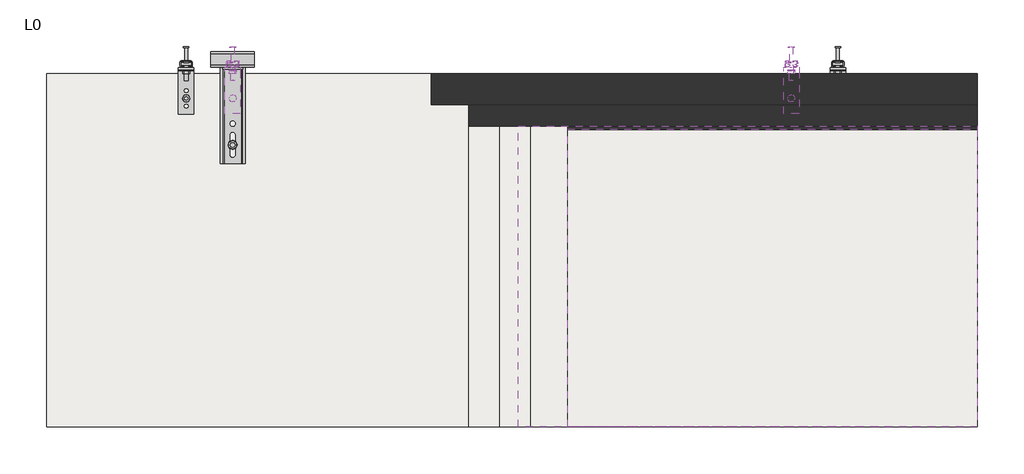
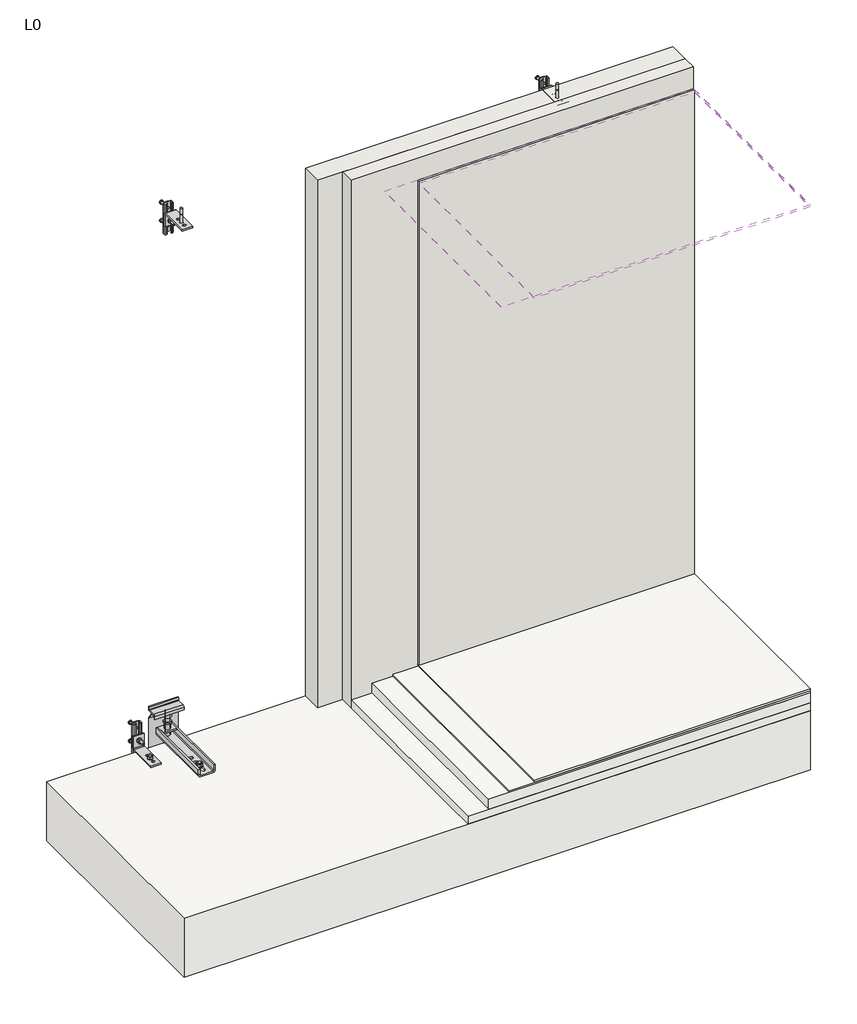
# One storey: 27 fasteners, 5 slabs, 3 walls, 2 coverings.
"""IFC4 building model written with IfcOpenShell, lengths in millimetres."""

from ifc_helpers import new_model, si_unit, frame, origin, origin_with_axes, place, context, project, spatial, polyline, outline, extrude, faceted_brep, transform, mapped, element, save
from components import fastener_e2884140, fastener_89f2e246, fastener_4d305c28, fastener_8cac4275, rec_aem12_100_aem12_100_46347e7a, rec_aem12_100_aem12_100_c00aaa73, rec_aem16_140_aem16_140_c98ec31b, rec_mf45t_mf45t_64a75cb8, rec_paa150708t14_paa150708t14_abbbcd53, rec_paa150708t14_paa150708t14_b81293e0, rec_ph4022_ph4022_520e7247, rec_ph4022_ph4022_34b11cd3, rec_tph1250_tph1250_56b32e52, rec_tph1250_tph1250_fb22594f

model = new_model("IFC4")

# Units and contexts
model_context = context("Model", 3, world=origin())
ifc_project = project(units=[si_unit("LENGTHUNIT", "METRE", prefix="MILLI")], contexts=[model_context])

# Site, building, storey
site = spatial("IfcSite", under=ifc_project)
building = spatial("IfcBuilding", under=site)
storey = spatial("IfcBuildingStorey", under=building, Name="L0", Elevation=0.0)

# Coverings
placement = place(None, origin())
element("IfcCovering", 1, ObjectType="Aislamiento", at=placement, inside=storey, context=model_context, shape_type="SweptSolid", body=[
    extrude(outline(polyline([(7887.7202663, 14794.5302953), (6407.7202663, 14794.5302953), (6407.7202663, 15764.5302953), (7887.7202663, 15764.5302953), (7887.7202663, 14794.5302953)])), frame((0.0, 0.0, 2560.0), z_axis=(0.0, 0.0, 1.0), x_axis=(1.0, 0.0, 0.0)), (0.0, 0.0, 1.0), 80.0),
])
element("IfcCovering", 2, ObjectType="Placa", at=placement, inside=storey, context=model_context, shape_type="SweptSolid", body=[
    extrude(outline(polyline([(7887.7202663, 14794.5302953), (6567.7202663, 14794.5302953), (6567.7202663, 15754.5302953), (7887.7202663, 15754.5302953), (7887.7202663, 14794.5302953)])), frame((0.0, 0.0, 2550.0), z_axis=(0.0, 0.0, 1.0), x_axis=(1.0, 0.0, 0.0)), (0.0, 0.0, 1.0), 10.0),
])

# Fasteners
fastener_shape = fastener_e2884140(model_context)
element("IfcFastener", 3, ObjectType="GEN-T-M12 : T-M12", at=placement, inside=storey, context=model_context, shape_type="MappedRepresentation", body=[
    mapped(fastener_shape, transform((5487.7202663, 15944.1302977, 2625.0), x_axis=(-1.0, 0.0, 0.0), y_axis=(0.0, 0.0, -1.0), z_axis=(0.0, -1.0, 0.0))),
])
element("IfcFastener", 4, ObjectType="GEN-T-M12 : T-M12", at=placement, inside=storey, context=model_context, shape_type="MappedRepresentation", body=[
    mapped(fastener_shape, transform((5337.7202663, 15944.1302977, 45.0), x_axis=(1.0, 0.0, 0.0), y_axis=(0.0, 0.0, 1.0), z_axis=(0.0, -1.0, 0.0))),
])
element("IfcFastener", 5, ObjectType="GEN-T-M12 : T-M12", at=placement, inside=storey, context=model_context, shape_type="MappedRepresentation", body=[
    mapped(fastener_shape, transform((7437.7202663, 15944.1302977, 45.0), x_axis=(1.0, 0.0, 0.0), y_axis=(0.0, 0.0, 1.0), z_axis=(0.0, -1.0, 0.0))),
])
fastener_2_shape = fastener_89f2e246(model_context)
element("IfcFastener", 6, ObjectType="GEN-A-M12 : A-M12", at=placement, inside=storey, context=model_context, shape_type="MappedRepresentation", body=[
    mapped(fastener_2_shape, transform((5487.7202663, 15946.5302953, 2625.0), x_axis=(-1.0, 0.0, 0.0), y_axis=(0.0, 0.0, -1.0), z_axis=(0.0, -1.0, 0.0))),
])
element("IfcFastener", 7, ObjectType="GEN-A-M12 : A-M12", at=placement, inside=storey, context=model_context, shape_type="MappedRepresentation", body=[
    mapped(fastener_2_shape, transform((5337.7202663, 15946.5302953, 45.0), x_axis=(1.0, 0.0, 0.0), y_axis=(0.0, 0.0, 1.0), z_axis=(0.0, -1.0, 0.0))),
])
element("IfcFastener", 8, ObjectType="GEN-A-M12 : A-M12", at=placement, inside=storey, context=model_context, shape_type="MappedRepresentation", body=[
    mapped(fastener_2_shape, transform((7437.7202663, 15946.5302953, 45.0), x_axis=(1.0, 0.0, 0.0), y_axis=(0.0, 0.0, 1.0), z_axis=(0.0, -1.0, 0.0))),
])
fastener_3_shape = fastener_4d305c28(model_context)
element("IfcFastener", 9, ObjectType="REC-CMFPR-2 : CMFPR-2", at=placement, inside=storey, context=model_context, shape_type="MappedRepresentation", body=[
    mapped(fastener_3_shape, transform((5487.5892832, 15954.5302953, -83.5), x_axis=(0.0, 0.0, -1.0), y_axis=(1.0, 0.0, 0.0), z_axis=(0.0, -1.0, 0.0))),
])
element("IfcFastener", 10, ObjectType="GEN-A-M12 : A-M12", at=placement, inside=storey, context=model_context, shape_type="MappedRepresentation", body=[
    mapped(fastener_2_shape, transform((7287.7202663, 15946.5302953, 2625.0), x_axis=(1.0, 0.0, 0.0), y_axis=(0.0, 0.0, 1.0), z_axis=(0.0, -1.0, 0.0))),
])
fastener_4_shape = fastener_8cac4275(model_context)
element("IfcFastener", 11, ObjectType="GEN-T-M12 : T-M12", at=placement, inside=storey, context=model_context, shape_type="MappedRepresentation", body=[
    mapped(fastener_4_shape, transform((7287.7202663, 15944.1302977, 2625.0), x_axis=(1.0, 0.0, 0.0), y_axis=(0.0, 0.0, 1.0), z_axis=(0.0, -1.0, 0.0))),
])
rec_aem12_100_aem12_100_shape = rec_aem12_100_aem12_100_46347e7a(model_context)
element("IfcFastener", 12, ObjectType="REC-AEM12-100 : AEM12-100", at=placement, inside=storey, context=model_context, shape_type="MappedRepresentation", body=[
    mapped(rec_aem12_100_aem12_100_shape, transform((5487.7202663, 15854.5302953, 2662.0), x_axis=(-1.0, 0.0, 0.0), y_axis=(0.0, 1.0, 0.0), z_axis=(0.0, 0.0, -1.0))),
])
element("IfcFastener", 13, ObjectType="REC-AEM12-100 : AEM12-100", at=placement, inside=storey, context=model_context, shape_type="MappedRepresentation", body=[
    mapped(rec_aem12_100_aem12_100_shape, transform((5337.7202663, 15854.5302953, 8.0), x_axis=(1.0, 0.0, 0.0), y_axis=(0.0, 1.0, 0.0), z_axis=(0.0, 0.0, 1.0))),
])
element("IfcFastener", 14, ObjectType="REC-AEM12-100 : AEM12-100", at=placement, inside=storey, context=model_context, shape_type="MappedRepresentation", body=[
    mapped(rec_aem12_100_aem12_100_shape, transform((7437.7202663, 15854.5302953, 8.0), x_axis=(1.0, 0.0, 0.0), y_axis=(0.0, 1.0, 0.0), z_axis=(0.0, 0.0, 1.0))),
])
rec_aem12_100_aem12_100_2_shape = rec_aem12_100_aem12_100_c00aaa73(model_context)
element("IfcFastener", 15, ObjectType="REC-AEM12-100 : AEM12-100", at=placement, inside=storey, context=model_context, shape_type="MappedRepresentation", body=[
    mapped(rec_aem12_100_aem12_100_2_shape, transform((7287.7202663, 15854.5302953, 2662.0), x_axis=(1.0, 0.0, 0.0), y_axis=(0.0, -1.0, 0.0), z_axis=(0.0, 0.0, -1.0))),
])
rec_aem16_140_aem16_140_shape = rec_aem16_140_aem16_140_c98ec31b(model_context)
element("IfcFastener", 16, ObjectType="REC-AEM16-140 : AEM16-140", at=placement, inside=storey, context=model_context, shape_type="MappedRepresentation", body=[
    mapped(rec_aem16_140_aem16_140_shape, transform((5487.5892832, 15704.5302953, 8.0401188), x_axis=(0.0, 1.0, 0.0), y_axis=(-1.0, 0.0, -1.0642456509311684e-12), z_axis=(-1.0642456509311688e-12, 0.0, 1.0))),
])
rec_mf45t_mf45t_shape = rec_mf45t_mf45t_64a75cb8(model_context)
element("IfcFastener", 17, ObjectType="REC-MF45T : MF45T", at=placement, inside=storey, context=model_context, shape_type="MappedRepresentation", body=[
    mapped(rec_mf45t_mf45t_shape, transform((5487.5892832, 15994.5302953, 0.0401188), x_axis=(1.0, 0.0, 0.0), y_axis=(0.0, 0.0, 1.0), z_axis=(0.0, -1.0, 0.0))),
])
rec_paa150708t14_paa150708t14_shape = rec_paa150708t14_paa150708t14_abbbcd53(model_context)
element("IfcFastener", 18, ObjectType="REC-PAA150708T14 : PAA150708T14", at=placement, inside=storey, context=model_context, shape_type="MappedRepresentation", body=[
    mapped(rec_paa150708t14_paa150708t14_shape, transform((5487.7202663, 15954.5302953, 2670.0), x_axis=(-1.0, 0.0, 0.0), y_axis=(0.0, 0.0, -1.0), z_axis=(0.0, -1.0, 0.0))),
])
element("IfcFastener", 19, ObjectType="REC-PAA150708T14 : PAA150708T14", at=placement, inside=storey, context=model_context, shape_type="MappedRepresentation", body=[
    mapped(rec_paa150708t14_paa150708t14_shape, transform((5337.7202663, 15954.5302953, 0.0), x_axis=(1.0, 0.0, 0.0), y_axis=(0.0, 0.0, 1.0), z_axis=(0.0, -1.0, 0.0))),
])
element("IfcFastener", 20, ObjectType="REC-PAA150708T14 : PAA150708T14", at=placement, inside=storey, context=model_context, shape_type="MappedRepresentation", body=[
    mapped(rec_paa150708t14_paa150708t14_shape, transform((7437.7202663, 15954.5302953, 0.0), x_axis=(1.0, 0.0, 0.0), y_axis=(0.0, 0.0, 1.0), z_axis=(0.0, -1.0, 0.0))),
])
rec_paa150708t14_paa150708t14_2_shape = rec_paa150708t14_paa150708t14_b81293e0(model_context)
element("IfcFastener", 21, ObjectType="REC-PAA150708T14 : PAA150708T14", at=placement, inside=storey, context=model_context, shape_type="MappedRepresentation", body=[
    mapped(rec_paa150708t14_paa150708t14_2_shape, transform((7287.7202663, 15954.5302953, 2670.0), x_axis=(1.0, 0.0, 0.0), y_axis=(0.0, 0.0, 1.0), z_axis=(0.0, -1.0, 0.0))),
])
rec_ph4022_ph4022_shape = rec_ph4022_ph4022_520e7247(model_context)
element("IfcFastener", 22, ObjectType="REC-PH4022 : PH4022", at=placement, inside=storey, context=model_context, shape_type="MappedRepresentation", body=[
    mapped(rec_ph4022_ph4022_shape, transform((5487.7202663, 15954.5302953, 2625.0), x_axis=(0.0, 0.0, 1.0), y_axis=(-1.0, 0.0, 0.0), z_axis=(0.0, -1.0, 0.0))),
])
element("IfcFastener", 23, ObjectType="REC-PH4022 : PH4022", at=placement, inside=storey, context=model_context, shape_type="MappedRepresentation", body=[
    mapped(rec_ph4022_ph4022_shape, transform((5337.7202663, 15954.5302953, 45.0), x_axis=(0.0, 0.0, -1.0), y_axis=(1.0, 0.0, 0.0), z_axis=(0.0, -1.0, 0.0))),
])
element("IfcFastener", 24, ObjectType="REC-PH4022 : PH4022", at=placement, inside=storey, context=model_context, shape_type="MappedRepresentation", body=[
    mapped(rec_ph4022_ph4022_shape, transform((7437.7202663, 15954.5302953, 45.0), x_axis=(0.0, 0.0, -1.0), y_axis=(1.0, 0.0, 0.0), z_axis=(0.0, -1.0, 0.0))),
])
rec_ph4022_ph4022_2_shape = rec_ph4022_ph4022_34b11cd3(model_context)
element("IfcFastener", 25, ObjectType="REC-PH4022 : PH4022", at=placement, inside=storey, context=model_context, shape_type="MappedRepresentation", body=[
    mapped(rec_ph4022_ph4022_2_shape, transform((7287.7202663, 15954.5302953, 2625.0), x_axis=(0.0, 0.0, 1.0), y_axis=(-1.0, 0.0, 0.0), z_axis=(0.0, -1.0, 0.0))),
])
rec_tph1250_tph1250_shape = rec_tph1250_tph1250_56b32e52(model_context)
element("IfcFastener", 26, ObjectType="REC-TPH1250 : TPH1250", at=placement, inside=storey, context=model_context, shape_type="MappedRepresentation", body=[
    mapped(rec_tph1250_tph1250_shape, transform((5487.7202663, 15911.5355917, 2625.0), x_axis=(-1.0, 0.0, 0.0), y_axis=(0.0, 0.0, 1.0), z_axis=(0.0, 1.0, 0.0))),
])
element("IfcFastener", 27, ObjectType="REC-TPH1250 : TPH1250", at=placement, inside=storey, context=model_context, shape_type="MappedRepresentation", body=[
    mapped(rec_tph1250_tph1250_shape, transform((5337.7202663, 15911.5355917, 45.0), x_axis=(1.0, 0.0, 0.0), y_axis=(0.0, 0.0, -1.0), z_axis=(0.0, 1.0, 0.0))),
])
element("IfcFastener", 28, ObjectType="REC-TPH1250 : TPH1250", at=placement, inside=storey, context=model_context, shape_type="MappedRepresentation", body=[
    mapped(rec_tph1250_tph1250_shape, transform((7437.7202663, 15911.5355917, 45.0), x_axis=(1.0, 0.0, 0.0), y_axis=(0.0, 0.0, -1.0), z_axis=(0.0, 1.0, 0.0))),
])
rec_tph1250_tph1250_2_shape = rec_tph1250_tph1250_fb22594f(model_context)
element("IfcFastener", 29, ObjectType="REC-TPH1250 : TPH1250", at=placement, inside=storey, context=model_context, shape_type="MappedRepresentation", body=[
    mapped(rec_tph1250_tph1250_2_shape, transform((7287.7202663, 15911.5355917, 2625.0), x_axis=(1.0, 0.0, 0.0), y_axis=(0.0, 0.0, -1.0), z_axis=(0.0, 1.0, 0.0))),
])

# Slabs
element("IfcSlab", 30, ObjectType="DPG_Pegamento cemento", at=placement, inside=storey, context=model_context, shape_type="SweptSolid", body=[
    extrude(outline(polyline([(7887.7202663, 15764.5302953), (7887.7202663, 14794.5302953), (6447.7202663, 14794.5302953), (6447.7202663, 15764.5302953), (7887.7202663, 15764.5302953)])), frame((0.0, 0.0, 90.0), z_axis=(0.0, 0.0, 1.0), x_axis=(1.0, 0.0, 0.0)), (0.0, 0.0, 1.0), 10.0),
])
element("IfcSlab", 31, ObjectType="DPG_Aislamiento Suelo", at=placement, inside=storey, context=model_context, shape_type="SweptSolid", body=[
    extrude(outline(polyline([(7887.7202663, 15764.5302953), (7887.7202663, 14794.5302953), (6247.7202663, 14794.5302953), (6247.7202663, 15764.5302953), (7887.7202663, 15764.5302953)])), origin_with_axes(), (0.0, 0.0, 1.0), 40.0),
])
element("IfcSlab", 32, ObjectType="DPG_Ceramica", at=placement, inside=storey, context=model_context, shape_type="SweptSolid", body=[
    extrude(outline(polyline([(7887.7202663, 15764.5302953), (7887.7202663, 14794.5302953), (6567.7202663, 14794.5302953), (6567.7202663, 15764.5302953), (7887.7202663, 15764.5302953)])), frame((0.0, 0.0, 100.0), z_axis=(0.0, 0.0, 1.0), x_axis=(1.0, 0.0, 0.0)), (0.0, 0.0, 1.0), 10.0),
])
element("IfcSlab", 33, ObjectType="DPG_Losa Principal Obra", at=placement, inside=storey, context=model_context, shape_type="SweptSolid", body=[
    extrude(outline(polyline([(7887.7202663, 15934.5302953), (7887.7202663, 14794.5302953), (4887.7202663, 14794.5302953), (4887.7202663, 15934.5302953), (7887.7202663, 15934.5302953)])), frame((0.0, 0.0, -300.0), z_axis=(0.0, 0.0, 1.0), x_axis=(1.0, 0.0, 0.0)), (0.0, 0.0, 1.0), 300.0),
])
element("IfcSlab", 34, ObjectType="DPG_Recrecido", at=placement, inside=storey, context=model_context, shape_type="SweptSolid", body=[
    extrude(outline(polyline([(7887.7202663, 15764.5302953), (7887.7202663, 14794.5302953), (6347.7202663, 14794.5302953), (6347.7202663, 15764.5302953), (7887.7202663, 15764.5302953)])), frame((0.0, 0.0, 40.0), z_axis=(0.0, 0.0, 1.0), x_axis=(1.0, 0.0, 0.0)), (0.0, 0.0, 1.0), 50.0),
])

# Walls
element("IfcWall", 35, ObjectType="DPG_Aislamiento", at=placement, inside=storey, context=model_context, shape_type="SweptSolid", body=[
    extrude(outline(polyline([(7887.7202663, 15834.5302953), (6127.7202663, 15834.5302953), (6127.7202663, 15934.5302953), (7887.7202663, 15934.5302953), (7887.7202663, 15834.5302953)])), origin_with_axes(), (0.0, 0.0, 1.0), 2670.0),
])
element("IfcWall", 36, ObjectType="DPG_Enlucido", at=placement, inside=storey, context=model_context, shape_type="SweptSolid", body=[
    extrude(outline(polyline([(7887.7202663, 15754.5302953), (6567.7202663, 15754.5302953), (6567.7202663, 15764.5302953), (7887.7202663, 15764.5302953), (7887.7202663, 15754.5302953)])), frame((0.0, 0.0, 110.0), z_axis=(0.0, 0.0, 1.0), x_axis=(1.0, 0.0, 0.0)), (0.0, 0.0, 1.0), 2450.0),
])
element("IfcWall", 37, ObjectType="DPG_Ladrillo", at=placement, inside=storey, context=model_context, shape_type="Brep", body=[
    faceted_brep([(6247.7202663, 15764.5302953, 0.0), (7887.7202663, 15764.5302953, 0.0), (7887.7202663, 15764.5302953, 40.0), (7887.7202663, 15764.5302953, 90.0), (7887.7202663, 15764.5302953, 100.0), (7887.7202663, 15764.5302953, 110.0), (7887.7202663, 15764.5302953, 2670.0), (6247.7202663, 15764.5302953, 2670.0), (6247.7202663, 15834.5302953, 0.0), (6247.7202663, 15834.5302953, 2670.0), (7887.7202663, 15834.5302953, 2670.0), (7887.7202663, 15834.5302953, 0.0)], [[[0, 1, 2, 3, 4, 5, 6, 7]], [[8, 9, 10, 11]], [[1, 0, 8, 11]], [[6, 5, 4, 3, 2, 1, 11, 10]], [[7, 6, 10, 9]], [[0, 7, 9, 8]]]),
])

save(model, "model.ifc")
